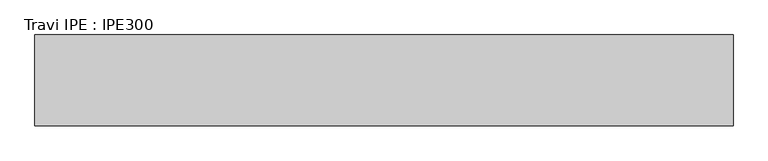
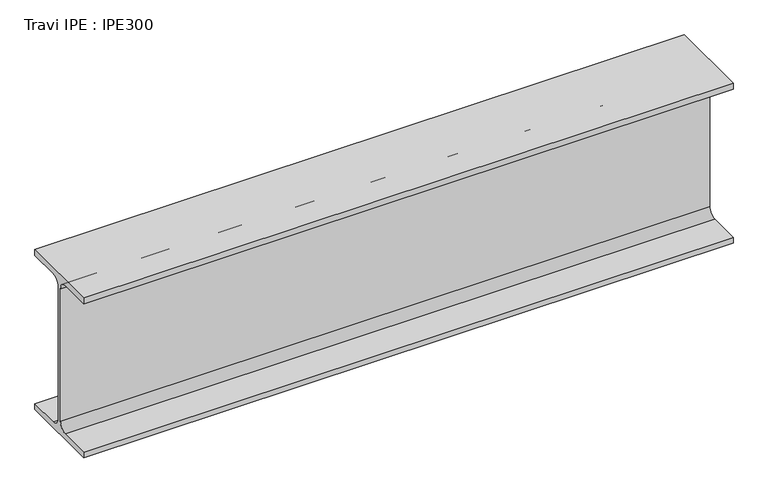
"""IFC4 building model written with IfcOpenShell, lengths in millimetres: beam geometry, Travi IPE : IPE300."""

from ifc_helpers import new_model, si_unit, point, frame, frame_2d, origin, place, context, project, spatial, polyline, circle_curve, trimmed, segment, composite_curve, outline, extrude, source, transform, mapped, element, save


def travi_ipe_ipe300_89c28c39(model_context):
    return source(origin(), model_context, "Body", "SweptSolid", [
        extrude(outline(composite_curve([segment(polyline([(75.0, -139.3), (75.0, -150.0), (-75.0, -150.0), (-75.0, -139.3), (-18.55, -139.3)]), True, "CONTINUOUS"), segment(trimmed(circle_curve(frame_2d((-18.55, -124.3)), 15.0), [point((-18.55, -139.3))], [point((-3.55, -124.3))], True, "CARTESIAN"), True, "CONTINUOUS"), segment(polyline([(-3.55, -124.3), (-3.55, 124.3)]), True, "CONTINUOUS"), segment(trimmed(circle_curve(frame_2d((-18.55, 124.3)), 15.0), [point((-3.55, 124.3))], [point((-18.55, 139.3))], True, "CARTESIAN"), True, "CONTINUOUS"), segment(polyline([(-18.55, 139.3), (-75.0, 139.3), (-75.0, 150.0), (75.0, 150.0), (75.0, 139.3), (18.55, 139.3)]), True, "CONTINUOUS"), segment(trimmed(circle_curve(frame_2d((18.55, 124.3)), 15.0), [point((18.55, 139.3))], [point((3.55, 124.3))], True, "CARTESIAN"), True, "CONTINUOUS"), segment(polyline([(3.55, 124.3), (3.55, -124.3)]), True, "CONTINUOUS"), segment(trimmed(circle_curve(frame_2d((18.55, -124.3)), 15.0), [point((3.55, -124.3))], [point((18.55, -139.3))], True, "CARTESIAN"), True, "CONTINUOUS"), segment(polyline([(18.55, -139.3), (75.0, -139.3)]), True, "CONTINUOUS")], self_intersect=False)), frame((-737.5, 0.0, 0.0), z_axis=(1.0, 0.0, 0.0), x_axis=(0.0, 1.0, 0.0)), (0.0, 0.0, 1.0), 1152.0),
    ])


if __name__ == "__main__":
    model = new_model("IFC4")
    model_context = context("Model", 3, world=origin())
    ifc_project = project(units=[si_unit("LENGTHUNIT", "METRE", prefix="MILLI")], contexts=[model_context])
    site = spatial("IfcSite", under=ifc_project)
    building = spatial("IfcBuilding", under=site)
    placement = place(None, origin())
    travi_ipe_ipe300_shape = travi_ipe_ipe300_89c28c39(model_context)
    element("IfcBeam", 1, ObjectType="Travi IPE : IPE300", at=placement, inside=building, context=model_context, shape_type="MappedRepresentation", body=[
        mapped(travi_ipe_ipe300_shape, transform((0.0, 0.0, 0.0), x_axis=(1.0, 0.0, 0.0), y_axis=(0.0, 1.0, 0.0), z_axis=(0.0, 0.0, 1.0))),
    ])
    save(model, "model.ifc")
